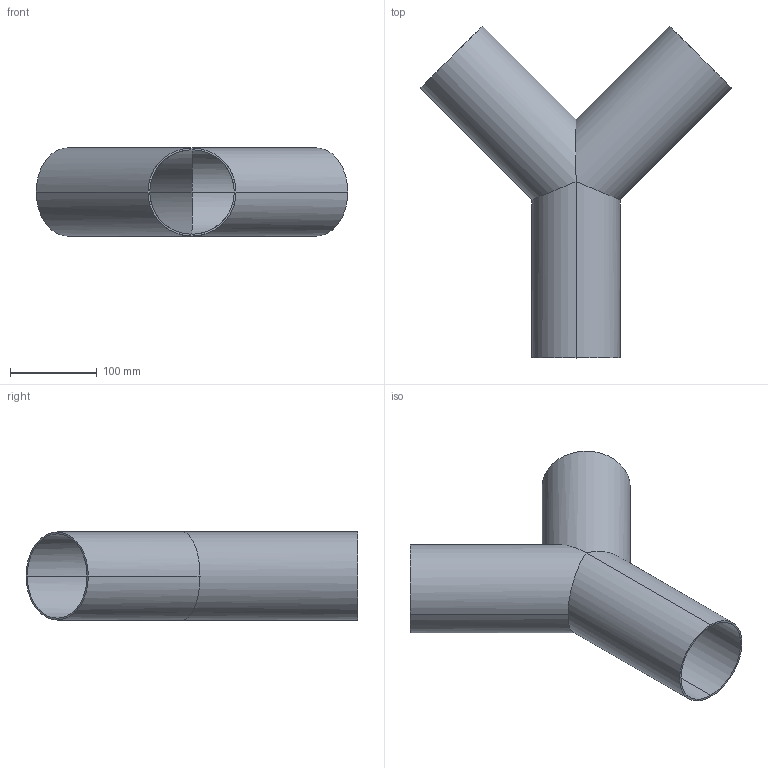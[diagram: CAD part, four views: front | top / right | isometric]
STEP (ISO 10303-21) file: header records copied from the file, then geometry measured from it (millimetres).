
FILE_DESCRIPTION (( 'STEP AP203' ), '1' );
FILE_NAME ('E28WB4.0.STEP', '2018-05-04T12:54:43', ( 'vneprd' ), ( 'Microsoft' ), 'SwSTEP 2.0', 'SolidWorks 2014', '' );
FILE_SCHEMA (( 'CONFIG_CONTROL_DESIGN' ));
Length unit declared in the file: inch
Products named in the file (1): E28WB4.0
Bounding box: 359.21 x 382.81 x 101.6 mm (x, y, z)
Volume: 363530.9 mm3; surface area: 346839.2 mm2
Topology: 1 solids, 1 shells, 15 faces, 36 edges, 22 vertices
Faces by surface type: cylinder 12, plane 3
Entity records: 521 total; most frequent: CARTESIAN_POINT 110, ORIENTED_EDGE 72, DIRECTION 68, EDGE_CURVE 36, AXIS2_PLACEMENT_3D 28, VERTEX_POINT 22, EDGE_LOOP 18, FACE_OUTER_BOUND 15
